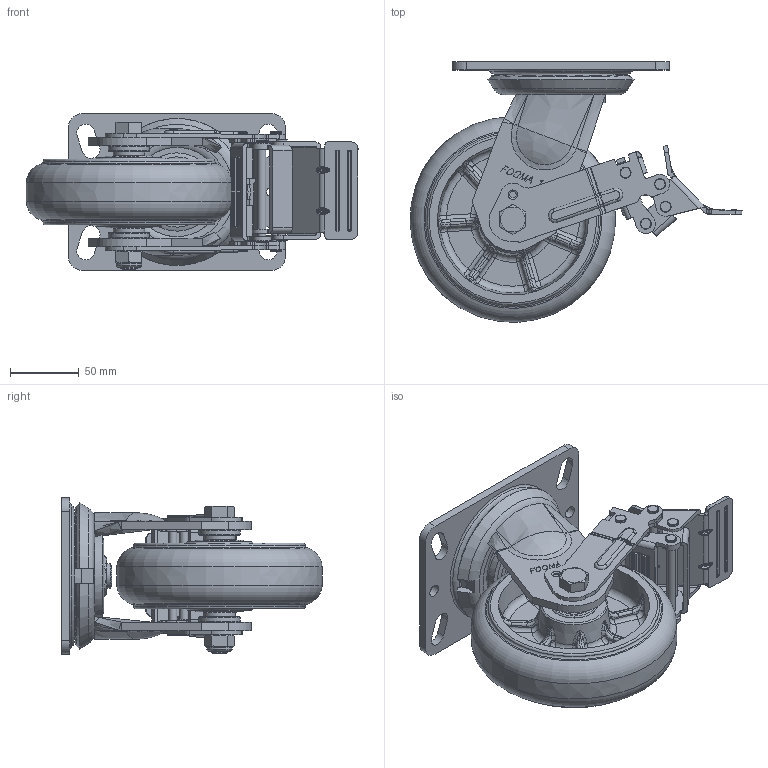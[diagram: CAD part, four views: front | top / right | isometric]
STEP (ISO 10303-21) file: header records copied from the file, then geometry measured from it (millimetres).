
FILE_DESCRIPTION(/* description */ (''),/* implementation_level */ '2;1');
FILE_NAME(/* name */ 'E:\★.DWG\PMH-SERIES\3D\홈페이지용\20180122-STEP\PMH-150-BSF-MUD-FRN.stp',/* time_stamp */ '2018-01-22T14:50:47+09:00',/* author */ ('장용하'),/* organization */ (''),/* preprocessor_version */ 'ST-DEVELOPER v16.13',/* originating_system */ 'Autodesk Inventor 2018',/* authorisation */ '');
FILE_SCHEMA (('AUTOMOTIVE_DESIGN { 1 0 10303 214 3 1 1 }'));
Length unit declared in the file: millimetre
Products named in the file (1): PMH-150-BSF-MUD-FRN_Shrinkwrap_1
Bounding box: 241.86 x 189.94 x 114 mm (x, y, z)
Volume: 915070.7 mm3; surface area: 206739.3 mm2
Topology: 3 solids, 3 shells, 2245 faces, 5813 edges, 3622 vertices
Faces by surface type: plane 1191, cylinder 494, bspline 413, torus 105, cone 34, sphere 8
Full cylindrical faces by diameter (mm): 4 x4, 5 x2, 6 x4, 6.2 x13, 7.7 x2, 8 x10, 9 x2, 12 x1, 18 x1, 18.5 x1, 21.667 x2, 21.867 x2, 22.9 x2, 28.133 x2, 28.333 x2, 30 x2, 35 x2, 65 x1, 90.814 x1, 125 x2
Entity records: 78849 total; most frequent: CARTESIAN_POINT 23735, ORIENTED_EDGE 11254, DIRECTION 10339, EDGE_CURVE 5627, VERTEX_POINT 3586, LINE 3551, VECTOR 3551, AXIS2_PLACEMENT_3D 3394
